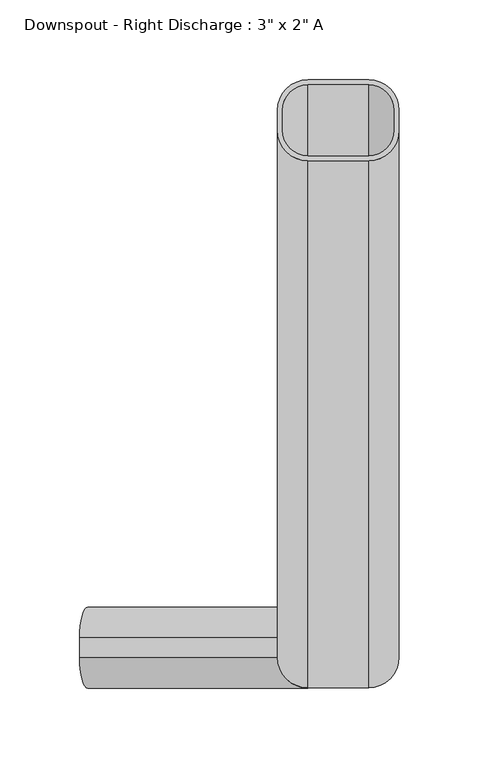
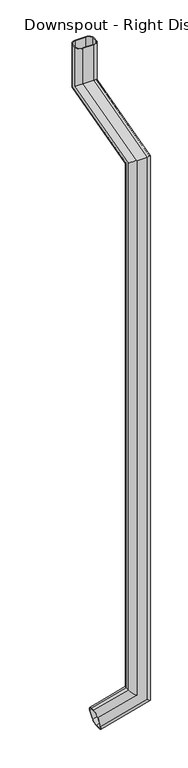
"""IFC4 building model written with IfcOpenShell, lengths in millimetres: proxy geometry."""

from ifc_helpers import new_model, si_unit, frame, origin, place, context, project, spatial, polyline, circle_curve, ellipse_curve, source, transform, mapped, element, save
from ifc_brep_helpers import plane_surface, cylinder_surface, revolved_surface, advanced_brep


def proxy_e1b6ae37(model_context):
    return source(origin(), model_context, "Body", "AdvancedBrep", [
        advanced_brep(
        [(-142.5389944, 196.85, 115.598226), (-147.4694972, 177.8, 133.999113), (-157.3305028, 177.8, 170.800887), (-162.2610056, 196.85, 189.201774), (-162.2610056, 209.55, 189.201774), (-157.3305028, 228.6, 170.800887), (-147.4694972, 228.6, 133.999113), (-142.5389944, 209.55, 115.598226), (-143.3607448, 196.85, 118.6650405), (-143.3607448, 209.55, 118.6650405), (-147.4694972, 225.425, 133.999113), (-157.3305028, 225.425, 170.800887), (-161.4392552, 209.55, 186.1349595), (-161.4392552, 196.85, 186.1349595), (-157.3305028, 180.975, 170.800887), (-147.4694972, 180.975, 133.999113), (19.05, 177.8, 178.6178778), (38.1, 196.85, 164.0002987), (38.1, 196.85, 2202.395703), (19.05, 177.8, 2217.0132822), (-38.1, 196.85, 222.4706152), (-19.05, 177.8, 207.853036), (-19.05, 177.8, 2217.0132822), (-38.1, 196.85, 2202.395703), (-38.1, 209.55, 222.4706152), (-38.1, 527.05, 2290.8725264), (-38.1, 527.05, 2438.4), (-38.1, 539.75, 2438.4), (-38.1, 539.75, 2281.1274736), (-38.1, 209.55, 2192.6506503), (-19.05, 228.6, 207.853036), (-19.05, 228.6, 2178.0330712), (38.1, 209.55, 164.0002987), (19.05, 228.6, 178.6178778), (19.05, 228.6, 2178.0330712), (38.1, 209.55, 2192.6506503), (38.1, 539.75, 2281.1274736), (38.1, 539.75, 2438.4), (38.1, 527.05, 2438.4), (38.1, 527.05, 2290.8725264), (34.925, 209.55, 166.4365619), (34.925, 196.85, 166.4365619), (34.925, 196.85, 2202.395703), (34.925, 527.05, 2290.8725264), (34.925, 527.05, 2438.4), (34.925, 539.75, 2438.4), (34.925, 539.75, 2281.1274736), (34.925, 209.55, 2192.6506503), (19.05, 225.425, 178.6178778), (19.05, 225.425, 2180.4693344), (-34.925, 209.55, 220.034352), (-19.05, 225.425, 207.853036), (-19.05, 225.425, 2180.4693344), (-34.925, 209.55, 2192.6506503), (-34.925, 196.85, 220.034352), (-34.925, 539.75, 2281.1274736), (-34.925, 539.75, 2438.4), (-34.925, 527.05, 2438.4), (-34.925, 527.05, 2290.8725264), (-34.925, 196.85, 2202.395703), (-19.05, 180.975, 207.853036), (-19.05, 180.975, 2214.577019), (19.05, 180.975, 178.6178778), (19.05, 180.975, 2214.577019), (19.05, 508.0, 2305.4901055), (-19.05, 508.0, 2305.4901055), (-19.05, 558.8, 2266.5098945), (19.05, 558.8, 2266.5098945), (19.05, 555.625, 2268.9461577), (-19.05, 555.625, 2268.9461577), (-19.05, 511.175, 2303.0538423), (19.05, 511.175, 2303.0538423), (19.05, 558.8, 2438.4), (-19.05, 558.8, 2438.4), (-19.05, 508.0, 2438.4), (19.05, 508.0, 2438.4), (19.05, 511.175, 2438.4), (-19.05, 511.175, 2438.4), (-19.05, 555.625, 2438.4), (19.05, 555.625, 2438.4)],
        [
            (0, 1, circle_curve(frame((-147.4694972, 196.85, 133.999113), z_axis=(-0.9659258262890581, 0.0, -0.2588190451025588), x_axis=(0.0, -1.0, 0.0)), 19.05)),
            (1, 2),
            (2, 3, circle_curve(frame((-157.3305028, 196.85, 170.800887), z_axis=(-0.9659258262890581, 0.0, -0.2588190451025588), x_axis=(0.0, -1.0, 0.0)), 19.05)),
            (3, 4),
            (4, 5, circle_curve(frame((-157.3305028, 209.55, 170.800887), z_axis=(-0.9659258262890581, 0.0, -0.2588190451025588), x_axis=(0.0, -1.0, 0.0)), 19.05)),
            (5, 6),
            (6, 7, circle_curve(frame((-147.4694972, 209.55, 133.999113), z_axis=(-0.9659258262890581, 0.0, -0.2588190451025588), x_axis=(0.0, -1.0, 0.0)), 19.05)),
            (7, 0),
            (8, 9),
            (9, 10, circle_curve(frame((-147.4694972, 209.55, 133.999113), z_axis=(0.9659258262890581, 0.0, 0.2588190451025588), x_axis=(0.0, -1.0, 0.0)), 15.875)),
            (10, 11),
            (11, 12, circle_curve(frame((-157.3305028, 209.55, 170.800887), z_axis=(0.9659258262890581, 0.0, 0.2588190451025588), x_axis=(0.0, -1.0, 0.0)), 15.875)),
            (12, 13),
            (13, 14, circle_curve(frame((-157.3305028, 196.85, 170.800887), z_axis=(0.9659258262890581, 0.0, 0.2588190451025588), x_axis=(0.0, -1.0, 0.0)), 15.875)),
            (14, 15),
            (15, 8, circle_curve(frame((-147.4694972, 196.85, 133.999113), z_axis=(0.9659258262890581, 0.0, 0.2588190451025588), x_axis=(0.0, -1.0, 0.0)), 15.875)),
            (16, 17, ellipse_curve(frame((19.05, 196.85, 178.6178778), z_axis=(0.6087614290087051, 0.0, 0.7933533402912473), x_axis=(0.7933533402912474, 0.0, -0.6087614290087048)), 24.0119995, 19.05)),
            (17, 18),
            (18, 19, ellipse_curve(frame((19.05, 196.85, 2202.395703), z_axis=(0.0, -0.6087614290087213, -0.7933533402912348), x_axis=(0.0, 0.7933533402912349, -0.608761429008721)), 24.0119995, 19.05)),
            (19, 16),
            (20, 21, ellipse_curve(frame((-19.05, 196.85, 207.853036), z_axis=(0.6087614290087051, 0.0, 0.7933533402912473), x_axis=(0.7933533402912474, 0.0, -0.6087614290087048)), 24.0119995, 19.05)),
            (21, 22),
            (22, 23, ellipse_curve(frame((-19.05, 196.85, 2202.395703), z_axis=(0.0, -0.6087614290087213, -0.7933533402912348), x_axis=(0.0, 0.7933533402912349, -0.608761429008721)), 24.0119995, 19.05)),
            (23, 20),
            (24, 20),
            (23, 25),
            (25, 26),
            (26, 27),
            (27, 28),
            (28, 29),
            (29, 24),
            (30, 24, ellipse_curve(frame((-19.05, 209.55, 207.853036), z_axis=(0.6087614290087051, 0.0, 0.7933533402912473), x_axis=(0.7933533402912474, 0.0, -0.6087614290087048)), 24.0119995, 19.05)),
            (29, 31, ellipse_curve(frame((-19.05, 209.55, 2192.6506503), z_axis=(0.0, -0.6087614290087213, -0.7933533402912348), x_axis=(0.0, 0.7933533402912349, -0.608761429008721)), 24.0119995, 19.05)),
            (31, 30),
            (32, 33, ellipse_curve(frame((19.05, 209.55, 178.6178778), z_axis=(0.6087614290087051, 0.0, 0.7933533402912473), x_axis=(0.7933533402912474, 0.0, -0.6087614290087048)), 24.0119995, 19.05)),
            (33, 34),
            (34, 35, ellipse_curve(frame((19.05, 209.55, 2192.6506503), z_axis=(0.0, -0.6087614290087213, -0.7933533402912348), x_axis=(0.0, 0.7933533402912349, -0.608761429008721)), 24.0119995, 19.05)),
            (35, 32),
            (17, 32),
            (35, 36),
            (36, 37),
            (37, 38),
            (38, 39),
            (39, 18),
            (40, 41),
            (41, 42),
            (42, 43),
            (43, 44),
            (44, 45),
            (45, 46),
            (46, 47),
            (47, 40),
            (48, 40, ellipse_curve(frame((19.05, 209.55, 178.6178778), z_axis=(-0.6087614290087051, 0.0, -0.7933533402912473), x_axis=(-0.7933533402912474, 0.0, 0.6087614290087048)), 20.0099996, 15.875)),
            (47, 49, ellipse_curve(frame((19.05, 209.55, 2192.6506503), z_axis=(0.0, 0.6087614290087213, 0.7933533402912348), x_axis=(0.0, -0.7933533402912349, 0.608761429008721)), 20.0099996, 15.875)),
            (49, 48),
            (50, 51, ellipse_curve(frame((-19.05, 209.55, 207.853036), z_axis=(-0.6087614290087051, 0.0, -0.7933533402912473), x_axis=(-0.7933533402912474, 0.0, 0.6087614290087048)), 20.0099996, 15.875)),
            (51, 52),
            (52, 53, ellipse_curve(frame((-19.05, 209.55, 2192.6506503), z_axis=(0.0, 0.6087614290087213, 0.7933533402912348), x_axis=(0.0, -0.7933533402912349, 0.608761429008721)), 20.0099996, 15.875)),
            (53, 50),
            (54, 50),
            (53, 55),
            (55, 56),
            (56, 57),
            (57, 58),
            (58, 59),
            (59, 54),
            (60, 54, ellipse_curve(frame((-19.05, 196.85, 207.853036), z_axis=(-0.6087614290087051, 0.0, -0.7933533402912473), x_axis=(-0.7933533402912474, 0.0, 0.6087614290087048)), 20.0099996, 15.875)),
            (59, 61, ellipse_curve(frame((-19.05, 196.85, 2202.395703), z_axis=(0.0, 0.6087614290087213, 0.7933533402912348), x_axis=(0.0, -0.7933533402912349, 0.608761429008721)), 20.0099996, 15.875)),
            (61, 60),
            (41, 62, ellipse_curve(frame((19.05, 196.85, 178.6178778), z_axis=(-0.6087614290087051, 0.0, -0.7933533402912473), x_axis=(-0.7933533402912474, 0.0, 0.6087614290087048)), 20.0099996, 15.875)),
            (62, 63),
            (63, 42, ellipse_curve(frame((19.05, 196.85, 2202.395703), z_axis=(0.0, 0.6087614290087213, 0.7933533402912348), x_axis=(0.0, -0.7933533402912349, 0.608761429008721)), 20.0099996, 15.875)),
            (39, 64, ellipse_curve(frame((19.05, 527.05, 2290.8725264), z_axis=(0.0, -0.6087614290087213, -0.7933533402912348), x_axis=(0.0, -0.7933533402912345, 0.6087614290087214)), 24.0119995, 19.05)),
            (64, 19),
            (22, 19),
            (64, 65),
            (65, 22),
            (65, 25, ellipse_curve(frame((-19.05, 527.05, 2290.8725264), z_axis=(0.0, -0.6087614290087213, -0.7933533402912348), x_axis=(0.0, -0.7933533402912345, 0.6087614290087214)), 24.0119995, 19.05)),
            (28, 66, ellipse_curve(frame((-19.05, 539.75, 2281.1274736), z_axis=(0.0, -0.6087614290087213, -0.7933533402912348), x_axis=(0.0, -0.7933533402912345, 0.6087614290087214)), 24.0119995, 19.05)),
            (66, 31),
            (34, 31),
            (66, 67),
            (67, 34),
            (67, 36, ellipse_curve(frame((19.05, 539.75, 2281.1274736), z_axis=(0.0, -0.6087614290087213, -0.7933533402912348), x_axis=(0.0, -0.7933533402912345, 0.6087614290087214)), 24.0119995, 19.05)),
            (46, 68, ellipse_curve(frame((19.05, 539.75, 2281.1274736), z_axis=(0.0, 0.6087614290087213, 0.7933533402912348), x_axis=(0.0, 0.7933533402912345, -0.6087614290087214)), 20.0099996, 15.875)),
            (68, 49),
            (52, 49),
            (68, 69),
            (69, 52),
            (69, 55, ellipse_curve(frame((-19.05, 539.75, 2281.1274736), z_axis=(0.0, 0.6087614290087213, 0.7933533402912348), x_axis=(0.0, 0.7933533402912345, -0.6087614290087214)), 20.0099996, 15.875)),
            (58, 70, ellipse_curve(frame((-19.05, 527.05, 2290.8725264), z_axis=(0.0, 0.6087614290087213, 0.7933533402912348), x_axis=(0.0, 0.7933533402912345, -0.6087614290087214)), 20.0099996, 15.875)),
            (70, 61),
            (63, 61),
            (70, 71),
            (71, 63),
            (71, 43, ellipse_curve(frame((19.05, 527.05, 2290.8725264), z_axis=(0.0, 0.6087614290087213, 0.7933533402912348), x_axis=(0.0, 0.7933533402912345, -0.6087614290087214)), 20.0099996, 15.875)),
            (37, 72, circle_curve(frame((19.05, 539.75, 2438.4), z_axis=(0.0, 0.0, 1.0), x_axis=(0.0, -1.0, 0.0)), 19.05)),
            (72, 73),
            (73, 27, circle_curve(frame((-19.05, 539.75, 2438.4), z_axis=(0.0, 0.0, 1.0), x_axis=(0.0, -1.0, 0.0)), 19.05)),
            (26, 74, circle_curve(frame((-19.05, 527.05, 2438.4), z_axis=(0.0, 0.0, 1.0), x_axis=(0.0, -1.0, 0.0)), 19.05)),
            (74, 75),
            (75, 38, circle_curve(frame((19.05, 527.05, 2438.4), z_axis=(0.0, 0.0, 1.0), x_axis=(0.0, -1.0, 0.0)), 19.05)),
            (44, 76, circle_curve(frame((19.05, 527.05, 2438.4), z_axis=(0.0, 0.0, -1.0), x_axis=(0.0, -1.0, 0.0)), 15.875)),
            (76, 77),
            (77, 57, circle_curve(frame((-19.05, 527.05, 2438.4), z_axis=(0.0, 0.0, -1.0), x_axis=(0.0, -1.0, 0.0)), 15.875)),
            (56, 78, circle_curve(frame((-19.05, 539.75, 2438.4), z_axis=(0.0, 0.0, -1.0), x_axis=(0.0, -1.0, 0.0)), 15.875)),
            (78, 79),
            (79, 45, circle_curve(frame((19.05, 539.75, 2438.4), z_axis=(0.0, 0.0, -1.0), x_axis=(0.0, -1.0, 0.0)), 15.875)),
            (75, 64),
            (74, 65),
            (73, 66),
            (72, 67),
            (79, 68),
            (78, 69),
            (77, 70),
            (76, 71),
            (0, 17),
            (16, 1),
            (21, 2),
            (20, 3),
            (24, 4),
            (30, 5),
            (33, 6),
            (32, 7),
            (8, 41),
            (40, 9),
            (48, 10),
            (51, 11),
            (50, 12),
            (54, 13),
            (60, 14),
            (62, 15),
        ],
        [
            plane_surface(frame((-152.4, 164.5744579, 152.4), z_axis=(-0.9659258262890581, 0.0, -0.2588190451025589), x_axis=(0.2588190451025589, 0.0, -0.9659258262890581))),
            cylinder_surface(frame((19.05, 196.85, 193.2354569), z_axis=(0.0, 0.0, -1.0), x_axis=(0.0, -1.0, 0.0)), 19.05),
            cylinder_surface(frame((-19.05, 196.85, 193.2354569), z_axis=(0.0, 0.0, -1.0), x_axis=(0.0, -1.0, 0.0)), 19.05),
            plane_surface(frame((-38.1, 196.85, 222.4706152), z_axis=(-1.0, 0.0, 0.0), x_axis=(0.0, 0.0, 1.0))),
            cylinder_surface(frame((-19.05, 209.55, 193.2354569), z_axis=(0.0, 0.0, -1.0), x_axis=(0.0, -1.0, 0.0)), 19.05),
            cylinder_surface(frame((19.05, 209.55, 193.2354569), z_axis=(0.0, 0.0, -1.0), x_axis=(0.0, -1.0, 0.0)), 19.05),
            plane_surface(frame((38.1, 209.55, 164.0002987), z_axis=(1.0, 0.0, 0.0), x_axis=(0.0, 0.0, 1.0))),
            plane_surface(frame((34.925, 196.85, 166.4365619), z_axis=(-1.0, 0.0, 0.0), x_axis=(0.0, 0.0, 1.0))),
            revolved_surface(polyline([(19.05, 193.675, 2204.8319662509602), (19.05, 193.675, 166.4365618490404)]), (19.05, 209.55, 193.2354569), (0.0, 0.0, 1.0)),
            revolved_surface(polyline([(-19.05, 193.675, 2204.8319662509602), (-19.05, 193.675, 195.6717200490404)]), (-19.05, 209.55, 193.2354569), (0.0, 0.0, 1.0)),
            plane_surface(frame((-34.925, 209.55, 220.034352), z_axis=(1.0, 0.0, 0.0), x_axis=(0.0, 0.0, 1.0))),
            revolved_surface(polyline([(-19.05, 180.975, 2214.577019), (-19.05, 180.975, 195.6717200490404)]), (-19.05, 196.85, 193.2354569), (0.0, 0.0, 1.0)),
            revolved_surface(polyline([(19.05, 180.975, 2214.577019), (19.05, 180.975, 166.4365618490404)]), (19.05, 196.85, 193.2354569), (0.0, 0.0, 1.0)),
            cylinder_surface(frame((19.05, 201.5564991, 2203.6568057), z_axis=(0.0, -0.9659258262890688, -0.2588190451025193), x_axis=(0.0, -0.2588190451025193, 0.9659258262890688)), 19.05),
            plane_surface(frame((19.05, 177.8, 2217.0132822), z_axis=(0.0, -0.25881904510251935, 0.9659258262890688), x_axis=(0.0, 0.9659258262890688, 0.25881904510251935))),
            cylinder_surface(frame((-19.05, 201.5564991, 2203.6568057), z_axis=(0.0, -0.9659258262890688, -0.2588190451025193), x_axis=(0.0, -0.2588190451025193, 0.9659258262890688)), 19.05),
            cylinder_surface(frame((-19.05, 204.8435009, 2191.3895477), z_axis=(0.0, -0.9659258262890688, -0.2588190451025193), x_axis=(0.0, -0.2588190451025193, 0.9659258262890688)), 19.05),
            plane_surface(frame((-19.05, 228.6, 2178.0330712), z_axis=(0.0, 0.25881904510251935, -0.9659258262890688), x_axis=(0.0, 0.9659258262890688, 0.25881904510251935))),
            cylinder_surface(frame((19.05, 204.8435009, 2191.3895477), z_axis=(0.0, -0.9659258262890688, -0.2588190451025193), x_axis=(0.0, -0.2588190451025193, 0.9659258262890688)), 19.05),
            revolved_surface(polyline([(19.05, 547.4074953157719, 2299.6143027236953), (19.05, 193.6749999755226, 2204.8319662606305)]), (19.05, 204.8435009, 2191.3895477), (0.0, 0.9659258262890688, 0.2588190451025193)),
            plane_surface(frame((19.05, 225.425, 2180.4693344), z_axis=(0.0, -0.2588190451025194, 0.9659258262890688), x_axis=(0.0, 0.9659258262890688, 0.2588190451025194))),
            revolved_surface(polyline([(-19.05, 547.4074953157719, 2299.6143027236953), (-19.05, 193.6749999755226, 2204.8319662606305)]), (-19.05, 204.8435009, 2191.3895477), (0.0, 0.9659258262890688, 0.2588190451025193)),
            revolved_surface(polyline([(-19.05, 534.7074953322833, 2309.359355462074), (-19.05, 180.97499996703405, 2214.57701899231)]), (-19.05, 201.5564991, 2203.6568057), (0.0, 0.9659258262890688, 0.2588190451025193)),
            plane_surface(frame((-19.05, 180.975, 2214.577019), z_axis=(0.0, 0.25881904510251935, -0.9659258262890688), x_axis=(0.0, 0.9659258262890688, 0.25881904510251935))),
            revolved_surface(polyline([(19.05, 534.7074953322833, 2309.359355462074), (19.05, 180.97499996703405, 2214.57701899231)]), (19.05, 201.5564991, 2203.6568057), (0.0, 0.9659258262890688, 0.2588190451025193)),
            plane_surface(frame((0.0, 494.7744579, 2438.4), z_axis=(0.0, 0.0, 1.0), x_axis=(1.0, 0.0, 0.0))),
            cylinder_surface(frame((19.05, 527.05, 2286.0), z_axis=(0.0, 0.0, -1.0), x_axis=(0.0, -1.0, 0.0)), 19.05),
            plane_surface(frame((19.05, 508.0, 2305.4901055), z_axis=(0.0, -1.0, 0.0), x_axis=(0.0, 0.0, 1.0))),
            cylinder_surface(frame((-19.05, 527.05, 2286.0), z_axis=(0.0, 0.0, -1.0), x_axis=(0.0, -1.0, 0.0)), 19.05),
            cylinder_surface(frame((-19.05, 539.75, 2286.0), z_axis=(0.0, 0.0, -1.0), x_axis=(0.0, -1.0, 0.0)), 19.05),
            plane_surface(frame((-19.05, 558.8, 2266.5098945), z_axis=(0.0, 1.0, 0.0), x_axis=(0.0, 0.0, 1.0))),
            cylinder_surface(frame((19.05, 539.75, 2286.0), z_axis=(0.0, 0.0, -1.0), x_axis=(0.0, -1.0, 0.0)), 19.05),
            revolved_surface(polyline([(19.05, 523.875, 2438.4), (19.05, 523.875, 2268.9461576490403)]), (19.05, 539.75, 2286.0), (0.0, 0.0, 1.0)),
            plane_surface(frame((19.05, 555.625, 2268.9461577), z_axis=(0.0, -1.0, 0.0), x_axis=(0.0, 0.0, 1.0))),
            revolved_surface(polyline([(-19.05, 523.875, 2438.4), (-19.05, 523.875, 2268.9461576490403)]), (-19.05, 539.75, 2286.0), (0.0, 0.0, 1.0)),
            revolved_surface(polyline([(-19.05, 511.17499999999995, 2438.4), (-19.05, 511.17499999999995, 2278.69121044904)]), (-19.05, 527.05, 2286.0), (0.0, 0.0, 1.0)),
            plane_surface(frame((-19.05, 511.175, 2303.0538423), z_axis=(0.0, 1.0, 0.0), x_axis=(0.0, 0.0, 1.0))),
            revolved_surface(polyline([(19.05, 511.17499999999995, 2438.4), (19.05, 511.17499999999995, 2278.69121044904)]), (19.05, 527.05, 2286.0), (0.0, 0.0, 1.0)),
            cylinder_surface(frame((-147.4694972, 196.85, 133.999113), z_axis=(-0.9659258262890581, 0.0, -0.2588190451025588), x_axis=(0.0, -1.0, 0.0)), 19.05),
            plane_surface(frame((-147.4694972, 177.8, 133.999113), z_axis=(0.0, -1.0, 0.0), x_axis=(0.9659258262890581, 0.0, 0.258819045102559))),
            cylinder_surface(frame((-157.3305028, 196.85, 170.800887), z_axis=(-0.9659258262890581, 0.0, -0.2588190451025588), x_axis=(0.0, -1.0, 0.0)), 19.05),
            plane_surface(frame((-162.2610056, 196.85, 189.201774), z_axis=(-0.25881904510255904, 0.0, 0.9659258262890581), x_axis=(0.9659258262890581, 0.0, 0.25881904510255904))),
            cylinder_surface(frame((-157.3305028, 209.55, 170.800887), z_axis=(-0.9659258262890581, 0.0, -0.2588190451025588), x_axis=(0.0, -1.0, 0.0)), 19.05),
            plane_surface(frame((-157.3305028, 228.6, 170.800887), z_axis=(0.0, 1.0, 0.0), x_axis=(0.9659258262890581, 0.0, 0.2588190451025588))),
            cylinder_surface(frame((-147.4694972, 209.55, 133.999113), z_axis=(-0.9659258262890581, 0.0, -0.2588190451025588), x_axis=(0.0, -1.0, 0.0)), 19.05),
            plane_surface(frame((-142.5389944, 209.55, 115.598226), z_axis=(0.25881904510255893, 0.0, -0.9659258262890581), x_axis=(0.9659258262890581, 0.0, 0.25881904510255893))),
            plane_surface(frame((-143.3607448, 196.85, 118.6650405), z_axis=(-0.2588190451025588, 0.0, 0.9659258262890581), x_axis=(0.9659258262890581, 0.0, 0.2588190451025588))),
            revolved_surface(polyline([(30.816247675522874, 193.675, 181.77063436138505), (-147.4694972, 193.675, 133.999113)]), (-147.4694972, 209.55, 133.999113), (0.9659258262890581, 0.0, 0.2588190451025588)),
            plane_surface(frame((-147.4694972, 225.425, 133.999113), z_axis=(0.0, -1.0, 0.0), x_axis=(0.9659258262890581, 0.0, 0.2588190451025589))),
            revolved_surface(polyline([(-7.2837523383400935, 193.675, 211.00579261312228), (-157.33050285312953, 193.675, 170.80088698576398)]), (-157.3305028, 209.55, 170.800887), (0.9659258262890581, 0.0, 0.2588190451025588)),
            plane_surface(frame((-161.4392552, 209.55, 186.1349595), z_axis=(0.25881904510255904, 0.0, -0.9659258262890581), x_axis=(0.9659258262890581, 0.0, 0.25881904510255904))),
            revolved_surface(polyline([(-7.2837523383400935, 180.975, 211.00579261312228), (-157.33050285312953, 180.975, 170.80088698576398)]), (-157.3305028, 196.85, 170.800887), (0.9659258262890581, 0.0, 0.2588190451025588)),
            plane_surface(frame((-157.3305028, 180.975, 170.800887), z_axis=(0.0, 1.0, 0.0), x_axis=(0.9659258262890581, 0.0, 0.2588190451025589))),
            revolved_surface(polyline([(30.816247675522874, 180.975, 181.77063436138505), (-147.4694972, 180.975, 133.999113)]), (-147.4694972, 196.85, 133.999113), (0.9659258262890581, 0.0, 0.2588190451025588)),
        ],
        [
            (0, [[1, 2, 3, 4, 5, 6, 7, 8], [9, 10, 11, 12, 13, 14, 15, 16]]),
            (1, [[17, 18, 19, 20]]),
            (2, [[21, 22, 23, 24]]),
            (3, [[25, -24, 26, 27, 28, 29, 30, 31]]),
            (4, [[32, -31, 33, 34]]),
            (5, [[35, 36, 37, 38]]),
            (6, [[39, -38, 40, 41, 42, 43, 44, -18]]),
            (7, [[45, 46, 47, 48, 49, 50, 51, 52]]),
            (8, [[53, -52, 54, 55]]),
            (9, [[56, 57, 58, 59]]),
            (10, [[60, -59, 61, 62, 63, 64, 65, 66]]),
            (11, [[67, -66, 68, 69]]),
            (12, [[70, 71, 72, -46]]),
            (13, [[-19, -44, 73, 74]]),
            (14, [[75, -74, 76, 77]]),
            (15, [[-23, -77, 78, -26]]),
            (16, [[-33, -30, 79, 80]]),
            (17, [[81, -80, 82, 83]]),
            (18, [[-37, -83, 84, -40]]),
            (19, [[-54, -51, 85, 86]]),
            (20, [[87, -86, 88, 89]]),
            (21, [[-58, -89, 90, -61]]),
            (22, [[-68, -65, 91, 92]]),
            (23, [[93, -92, 94, 95]]),
            (24, [[-72, -95, 96, -47]]),
            (25, [[-42, 97, 98, 99, -28, 100, 101, 102], [103, 104, 105, -63, 106, 107, 108, -49]]),
            (26, [[-73, -43, -102, 109]]),
            (27, [[-76, -109, -101, 110]]),
            (28, [[-78, -110, -100, -27]]),
            (29, [[-79, -29, -99, 111]]),
            (30, [[-82, -111, -98, 112]]),
            (31, [[-84, -112, -97, -41]]),
            (32, [[-85, -50, -108, 113]]),
            (33, [[-88, -113, -107, 114]]),
            (34, [[-90, -114, -106, -62]]),
            (35, [[-91, -64, -105, 115]]),
            (36, [[-94, -115, -104, 116]]),
            (37, [[-96, -116, -103, -48]]),
            (38, [[-1, 117, -17, 118]]),
            (39, [[-2, -118, -20, -75, -22, 119]]),
            (40, [[-3, -119, -21, 120]]),
            (41, [[-4, -120, -25, 121]]),
            (42, [[-5, -121, -32, 122]]),
            (43, [[-6, -122, -34, -81, -36, 123]]),
            (44, [[-7, -123, -35, 124]]),
            (45, [[-8, -124, -39, -117]]),
            (46, [[-9, 125, -45, 126]]),
            (47, [[-10, -126, -53, 127]]),
            (48, [[-11, -127, -55, -87, -57, 128]]),
            (49, [[-12, -128, -56, 129]]),
            (50, [[-13, -129, -60, 130]]),
            (51, [[-14, -130, -67, 131]]),
            (52, [[-15, -131, -69, -93, -71, 132]]),
            (53, [[-16, -132, -70, -125]]),
        ],
    ),
    ])


if __name__ == "__main__":
    model = new_model("IFC4")
    model_context = context("Model", 3, world=origin())
    ifc_project = project(units=[si_unit("LENGTHUNIT", "METRE", prefix="MILLI")], contexts=[model_context])
    site = spatial("IfcSite", under=ifc_project)
    building = spatial("IfcBuilding", under=site)
    placement = place(None, origin())
    proxy_shape = proxy_e1b6ae37(model_context)
    element("IfcBuildingElementProxy", 1, Name="Downspout - Right Discharge : 3\" x 2\" A", ObjectType="Downspout - Right Discharge : 3\" x 2\" A", at=placement, inside=building, context=model_context, shape_type="MappedRepresentation", body=[
        mapped(proxy_shape, transform((0.0, 0.0, 0.0), x_axis=(1.0, 0.0, 0.0), y_axis=(0.0, 1.0, 0.0), z_axis=(0.0, 0.0, 1.0))),
    ])
    save(model, "model.ifc")
